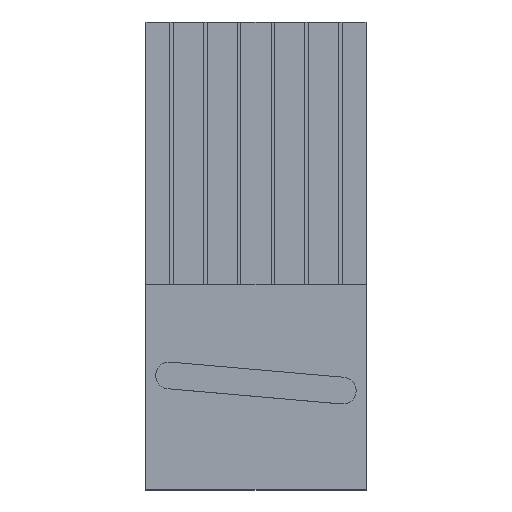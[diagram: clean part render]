
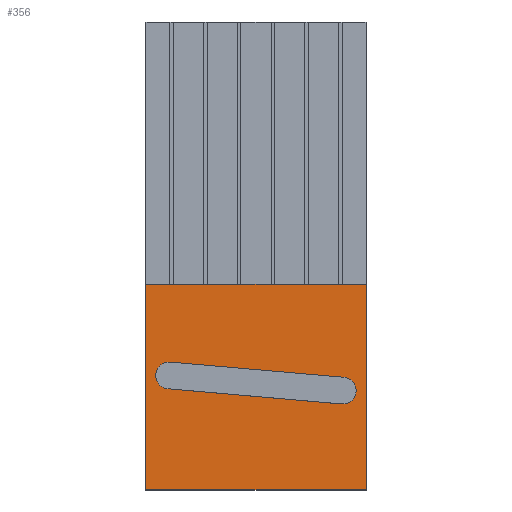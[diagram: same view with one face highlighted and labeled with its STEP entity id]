
A CAD part, top view. The second image highlights one B-rep face of the part: STEP entity #356.
In plain terms, the highlighted planar face has unit normal (0, 0, 1).
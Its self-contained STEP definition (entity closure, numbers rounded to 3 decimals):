
#2 = EDGE_CURVE ( 'NONE', #516, #489, #679, .T. ) ;
#3 = EDGE_CURVE ( 'NONE', #523, #507, #686, .T. ) ;
#10 = EDGE_CURVE ( 'NONE', #445, #486, #668, .T. ) ;
#11 = EDGE_CURVE ( 'NONE', #486, #523, #657, .T. ) ;
#14 = AXIS2_PLACEMENT_3D ( 'NONE', #1175, #1147, #1160 ) ;
#30 = AXIS2_PLACEMENT_3D ( 'NONE', #1170, #1098, #1099 ) ;
#80 = CARTESIAN_POINT ( 'NONE',  ( 78.749, 100.909, 4. ) ) ;
#91 = CARTESIAN_POINT ( 'NONE',  ( -98.5, 184., 4. ) ) ;
#100 = CARTESIAN_POINT ( 'NONE',  ( -76.657, 114.505, 4. ) ) ;
#110 = CARTESIAN_POINT ( 'NONE',  ( 76.657, 77., 4. ) ) ;
#115 = CARTESIAN_POINT ( 'NONE',  ( 98.5, 419., 4. ) ) ;
#121 = CARTESIAN_POINT ( 'NONE',  ( -98.5, 0., 4. ) ) ;
#126 = CARTESIAN_POINT ( 'NONE',  ( -78.749, 90.596, 4. ) ) ;
#133 = CARTESIAN_POINT ( 'NONE',  ( -77.703, 114.551, 4. ) ) ;
#135 = CARTESIAN_POINT ( 'NONE',  ( 98.5, 184., 4. ) ) ;
#173 = CARTESIAN_POINT ( 'NONE',  ( 98.5, 0., 4. ) ) ;
#206 = PLANE ( 'NONE',  #319 ) ;
#212 = DIRECTION ( 'NONE',  ( 0., 1., 0. ) ) ;
#215 = DIRECTION ( 'NONE',  ( 0., 0., -1. ) ) ;
#261 = EDGE_CURVE ( 'NONE', #489, #500, #1025, .T. ) ;
#288 = EDGE_CURVE ( 'NONE', #507, #445, #955, .T. ) ;
#289 = EDGE_CURVE ( 'NONE', #533, #516, #952, .T. ) ;
#307 = EDGE_CURVE ( 'NONE', #500, #511, #874, .T. ) ;
#308 = EDGE_CURVE ( 'NONE', #511, #533, #991, .T. ) ;
#319 = AXIS2_PLACEMENT_3D ( 'NONE', #115, #215, #212 ) ;
#356 = ADVANCED_FACE ( 'NONE', ( #943, #948 ), #206, .F. ) ;
#373 = AXIS2_PLACEMENT_3D ( 'NONE', #487, #488, #461 ) ;
#382 = DIRECTION ( 'NONE',  ( -1., 0., 0. ) ) ;
#422 = DIRECTION ( 'NONE',  ( 0., -1., 0. ) ) ;
#445 = VERTEX_POINT ( 'NONE', #173 ) ;
#449 = CARTESIAN_POINT ( 'NONE',  ( 98.5, 184., 4. ) ) ;
#461 = DIRECTION ( 'NONE',  ( 0., -1., 0. ) ) ;
#486 = VERTEX_POINT ( 'NONE', #135 ) ;
#487 = CARTESIAN_POINT ( 'NONE',  ( -77.703, 102.551, 4. ) ) ;
#488 = DIRECTION ( 'NONE',  ( 0., 0., 1. ) ) ;
#489 = VERTEX_POINT ( 'NONE', #133 ) ;
#491 = DIRECTION ( 'NONE',  ( 0., 1., 0. ) ) ;
#500 = VERTEX_POINT ( 'NONE', #126 ) ;
#503 = CARTESIAN_POINT ( 'NONE',  ( 98.5, 0., 4. ) ) ;
#506 = CARTESIAN_POINT ( 'NONE',  ( -98.5, 0., 4. ) ) ;
#507 = VERTEX_POINT ( 'NONE', #121 ) ;
#511 = VERTEX_POINT ( 'NONE', #110 ) ;
#516 = VERTEX_POINT ( 'NONE', #100 ) ;
#523 = VERTEX_POINT ( 'NONE', #91 ) ;
#533 = VERTEX_POINT ( 'NONE', #80 ) ;
#607 = EDGE_LOOP ( 'NONE', ( #751, #753, #754, #755 ) ) ;
#656 = VECTOR ( 'NONE', #382, 1000. ) ;
#657 = LINE ( 'NONE', #449, #656 ) ;
#661 = VECTOR ( 'NONE', #491, 1000. ) ;
#668 = LINE ( 'NONE', #503, #661 ) ;
#679 = CIRCLE ( 'NONE', #373, 12. ) ;
#686 = LINE ( 'NONE', #506, #702 ) ;
#702 = VECTOR ( 'NONE', #422, 1000. ) ;
#751 = ORIENTED_EDGE ( 'NONE', *, *, #10, .T. ) ;
#753 = ORIENTED_EDGE ( 'NONE', *, *, #11, .T. ) ;
#754 = ORIENTED_EDGE ( 'NONE', *, *, #3, .T. ) ;
#755 = ORIENTED_EDGE ( 'NONE', *, *, #288, .T. ) ;
#756 = ORIENTED_EDGE ( 'NONE', *, *, #2, .F. ) ;
#757 = ORIENTED_EDGE ( 'NONE', *, *, #289, .F. ) ;
#758 = ORIENTED_EDGE ( 'NONE', *, *, #308, .F. ) ;
#759 = ORIENTED_EDGE ( 'NONE', *, *, #307, .F. ) ;
#761 = ORIENTED_EDGE ( 'NONE', *, *, #261, .F. ) ;
#815 = EDGE_LOOP ( 'NONE', ( #756, #757, #758, #759, #761 ) ) ;
#874 = LINE ( 'NONE', #1187, #998 ) ;
#943 = FACE_OUTER_BOUND ( 'NONE', #607, .T. ) ;
#948 = FACE_BOUND ( 'NONE', #815, .T. ) ;
#951 = VECTOR ( 'NONE', #1174, 1000. ) ;
#952 = LINE ( 'NONE', #1128, #951 ) ;
#954 = VECTOR ( 'NONE', #1129, 1000. ) ;
#955 = LINE ( 'NONE', #1139, #954 ) ;
#991 = CIRCLE ( 'NONE', #30, 12. ) ;
#998 = VECTOR ( 'NONE', #1171, 1000. ) ;
#1025 = CIRCLE ( 'NONE', #14, 12. ) ;
#1098 = DIRECTION ( 'NONE',  ( 0., 0., 1. ) ) ;
#1099 = DIRECTION ( 'NONE',  ( 0., -1., 0. ) ) ;
#1128 = CARTESIAN_POINT ( 'NONE',  ( -76.657, 114.505, 4. ) ) ;
#1129 = DIRECTION ( 'NONE',  ( 1., 0., 0. ) ) ;
#1139 = CARTESIAN_POINT ( 'NONE',  ( -98.5, 0., 4. ) ) ;
#1147 = DIRECTION ( 'NONE',  ( 0., 0., 1. ) ) ;
#1160 = DIRECTION ( 'NONE',  ( 0., -1., 0. ) ) ;
#1170 = CARTESIAN_POINT ( 'NONE',  ( 77.703, 88.954, 4. ) ) ;
#1171 = DIRECTION ( 'NONE',  ( 0.996, -0.087, 0. ) ) ;
#1174 = DIRECTION ( 'NONE',  ( -0.996, 0.087, 0. ) ) ;
#1175 = CARTESIAN_POINT ( 'NONE',  ( -77.703, 102.551, 4. ) ) ;
#1187 = CARTESIAN_POINT ( 'NONE',  ( -78.749, 90.596, 4. ) ) ;
